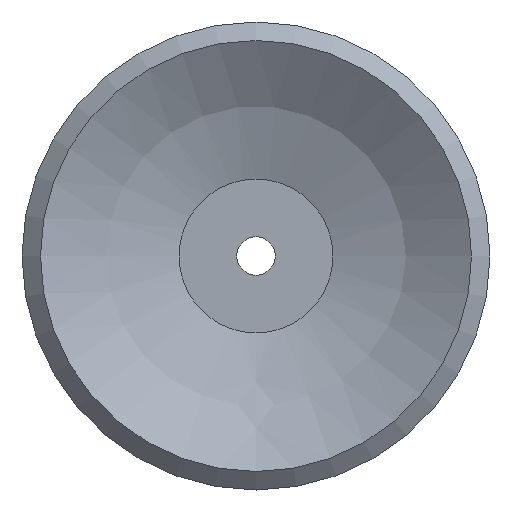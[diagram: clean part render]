
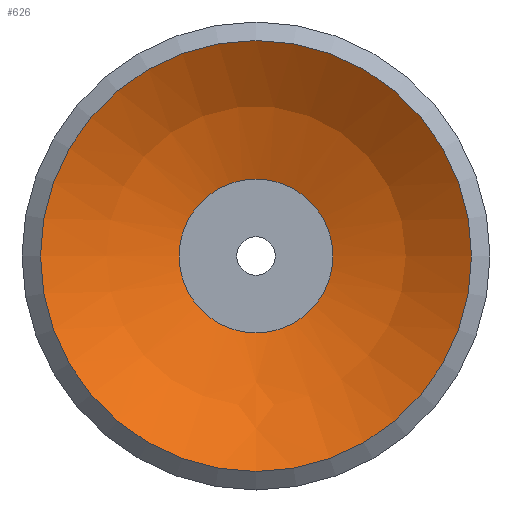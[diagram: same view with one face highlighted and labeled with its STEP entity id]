
A CAD part, front view. The second image highlights one B-rep face of the part: STEP entity #626.
In plain terms, the highlighted spherical face has radius 11.5 mm.
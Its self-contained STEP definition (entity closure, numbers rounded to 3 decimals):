
#626=ADVANCED_FACE('',(#1035,#1036),#1037,.F.);
#1035=FACE_OUTER_BOUND('',#1579,.T.);
#1036=FACE_OUTER_BOUND('',#1580,.T.);
#1037=SPHERICAL_SURFACE('',#1581,11.5);
#1579=EDGE_LOOP('',(#2642));
#1580=EDGE_LOOP('',(#2643));
#1581=AXIS2_PLACEMENT_3D('',#2644,#2645,#2646);
#2642=ORIENTED_EDGE('',*,*,#3547,.T.);
#2643=ORIENTED_EDGE('',*,*,#3510,.F.);
#2644=CARTESIAN_POINT('',(0.001,9.494,-22.735));
#2645=DIRECTION('',(0.0,0.,-1.0));
#2646=DIRECTION('',(1.0,0.0,0.0));
#3510=EDGE_CURVE('',#4096,#4096,#4097,.T.);
#3547=EDGE_CURVE('',#4167,#4167,#4168,.T.);
#4096=VERTEX_POINT('',#5435);
#4097=CIRCLE('',#5436,2.5);
#4167=VERTEX_POINT('',#5506);
#4168=CIRCLE('',#5507,7.0);
#5435=CARTESIAN_POINT('',(0.001,11.994,-11.51));
#5436=AXIS2_PLACEMENT_3D('',#6146,#6147,#6148);
#5506=CARTESIAN_POINT('',(0.001,16.494,-13.611));
#5507=AXIS2_PLACEMENT_3D('',#6257,#6258,#6259);
#6146=CARTESIAN_POINT('',(0.001,9.494,-11.51));
#6147=DIRECTION('',(0.0,0.,-1.0));
#6148=DIRECTION('',(0.0,1.0,0.));
#6257=CARTESIAN_POINT('',(0.001,9.494,-13.611));
#6258=DIRECTION('',(0.0,0.,-1.0));
#6259=DIRECTION('',(0.0,1.0,0.));
